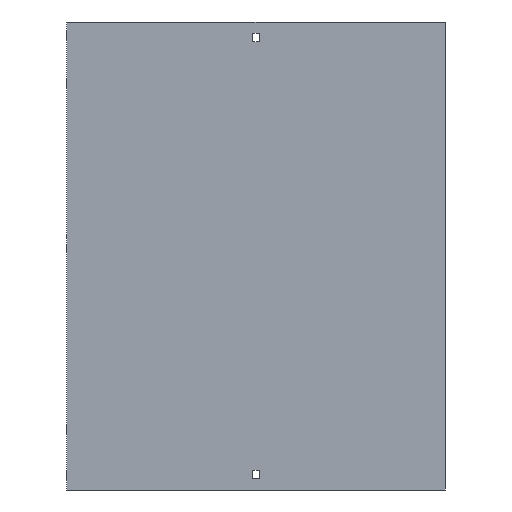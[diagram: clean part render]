
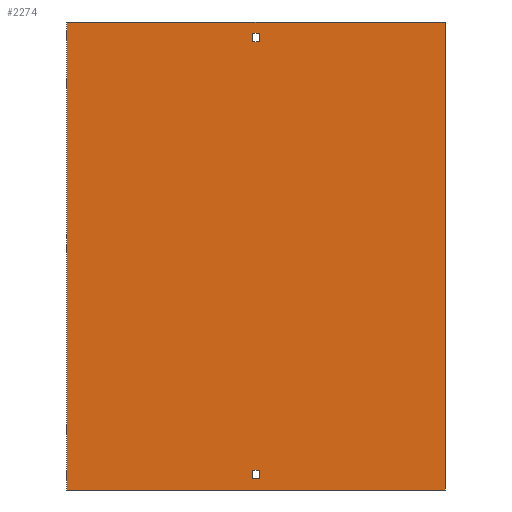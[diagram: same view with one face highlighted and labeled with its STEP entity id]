
A CAD part, front view. The second image highlights one B-rep face of the part: STEP entity #2274.
In plain terms, the highlighted planar face has unit normal (0, -1, 0).
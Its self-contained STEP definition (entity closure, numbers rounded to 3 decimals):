
#31 = VECTOR ( 'NONE', #1692, 1000. ) ;
#177 = CARTESIAN_POINT ( 'NONE',  ( 3.25, 0., 238. ) ) ;
#181 = VERTEX_POINT ( 'NONE', #618 ) ;
#189 = VECTOR ( 'NONE', #203, 1000. ) ;
#203 = DIRECTION ( 'NONE',  ( 0., 0., -1. ) ) ;
#223 = CARTESIAN_POINT ( 'NONE',  ( -3.25, 0., -229. ) ) ;
#231 = ORIENTED_EDGE ( 'NONE', *, *, #1274, .T. ) ;
#254 = EDGE_CURVE ( 'NONE', #893, #1667, #693, .T. ) ;
#265 = ORIENTED_EDGE ( 'NONE', *, *, #254, .T. ) ;
#286 = VERTEX_POINT ( 'NONE', #1114 ) ;
#298 = LINE ( 'NONE', #2214, #549 ) ;
#364 = ORIENTED_EDGE ( 'NONE', *, *, #1411, .T. ) ;
#373 = CARTESIAN_POINT ( 'NONE',  ( -3.25, 0., -229. ) ) ;
#395 = CARTESIAN_POINT ( 'NONE',  ( 3.25, 0., -238. ) ) ;
#406 = EDGE_CURVE ( 'NONE', #1943, #286, #1634, .T. ) ;
#463 = VECTOR ( 'NONE', #1958, 1000. ) ;
#478 = CARTESIAN_POINT ( 'NONE',  ( 202., 0., 250. ) ) ;
#488 = DIRECTION ( 'NONE',  ( -1., 0., 0. ) ) ;
#505 = EDGE_CURVE ( 'NONE', #2232, #1609, #799, .T. ) ;
#528 = VECTOR ( 'NONE', #2341, 1000. ) ;
#549 = VECTOR ( 'NONE', #1150, 1000. ) ;
#557 = VECTOR ( 'NONE', #1523, 1000. ) ;
#560 = EDGE_LOOP ( 'NONE', ( #2532, #2592, #1672, #599 ) ) ;
#579 = CARTESIAN_POINT ( 'NONE',  ( 202., 0., -250. ) ) ;
#599 = ORIENTED_EDGE ( 'NONE', *, *, #505, .F. ) ;
#616 = DIRECTION ( 'NONE',  ( 0., 0., 1. ) ) ;
#618 = CARTESIAN_POINT ( 'NONE',  ( 3.25, 0., -229. ) ) ;
#674 = EDGE_CURVE ( 'NONE', #1574, #181, #2619, .T. ) ;
#693 = LINE ( 'NONE', #2589, #807 ) ;
#725 = DIRECTION ( 'NONE',  ( 0., 0., -1. ) ) ;
#787 = VERTEX_POINT ( 'NONE', #1006 ) ;
#799 = LINE ( 'NONE', #811, #2564 ) ;
#807 = VECTOR ( 'NONE', #1528, 1000. ) ;
#811 = CARTESIAN_POINT ( 'NONE',  ( 3.25, 0., 238. ) ) ;
#844 = CARTESIAN_POINT ( 'NONE',  ( -3.25, 0., 229. ) ) ;
#860 = EDGE_LOOP ( 'NONE', ( #364, #2531, #2671, #231 ) ) ;
#893 = VERTEX_POINT ( 'NONE', #2568 ) ;
#921 = CARTESIAN_POINT ( 'NONE',  ( 3.25, 0., 229. ) ) ;
#935 = CARTESIAN_POINT ( 'NONE',  ( 202., 0., 250. ) ) ;
#1006 = CARTESIAN_POINT ( 'NONE',  ( -202., 0., -250. ) ) ;
#1022 = ORIENTED_EDGE ( 'NONE', *, *, #1963, .T. ) ;
#1031 = VERTEX_POINT ( 'NONE', #478 ) ;
#1114 = CARTESIAN_POINT ( 'NONE',  ( -3.25, 0., 229. ) ) ;
#1150 = DIRECTION ( 'NONE',  ( -1., 0., 0. ) ) ;
#1272 = LINE ( 'NONE', #2122, #528 ) ;
#1274 = EDGE_CURVE ( 'NONE', #2621, #787, #1277, .T. ) ;
#1277 = LINE ( 'NONE', #1925, #189 ) ;
#1318 = CARTESIAN_POINT ( 'NONE',  ( -202., 0., 250. ) ) ;
#1322 = FACE_BOUND ( 'NONE', #2565, .T. ) ;
#1323 = CARTESIAN_POINT ( 'NONE',  ( -202., 0., -250. ) ) ;
#1347 = CARTESIAN_POINT ( 'NONE',  ( -202., 0., 250. ) ) ;
#1401 = DIRECTION ( 'NONE',  ( 0., 0., -1. ) ) ;
#1411 = EDGE_CURVE ( 'NONE', #787, #1494, #2377, .T. ) ;
#1427 = LINE ( 'NONE', #395, #2689 ) ;
#1494 = VERTEX_POINT ( 'NONE', #579 ) ;
#1523 = DIRECTION ( 'NONE',  ( 1., 0., 0. ) ) ;
#1528 = DIRECTION ( 'NONE',  ( -1., 0., 0. ) ) ;
#1574 = VERTEX_POINT ( 'NONE', #373 ) ;
#1609 = VERTEX_POINT ( 'NONE', #177 ) ;
#1634 = LINE ( 'NONE', #1796, #1911 ) ;
#1667 = VERTEX_POINT ( 'NONE', #2746 ) ;
#1672 = ORIENTED_EDGE ( 'NONE', *, *, #1843, .F. ) ;
#1692 = DIRECTION ( 'NONE',  ( 1., 0., 0. ) ) ;
#1796 = CARTESIAN_POINT ( 'NONE',  ( -3.25, 0., 238. ) ) ;
#1797 = DIRECTION ( 'NONE',  ( 0., 1., 0. ) ) ;
#1809 = VECTOR ( 'NONE', #725, 1000. ) ;
#1821 = DIRECTION ( 'NONE',  ( 0., 0., -1. ) ) ;
#1843 = EDGE_CURVE ( 'NONE', #1609, #1943, #298, .T. ) ;
#1911 = VECTOR ( 'NONE', #1821, 1000. ) ;
#1925 = CARTESIAN_POINT ( 'NONE',  ( -202., 0., 250. ) ) ;
#1940 = CARTESIAN_POINT ( 'NONE',  ( -3.25, 0., -238. ) ) ;
#1943 = VERTEX_POINT ( 'NONE', #2474 ) ;
#1957 = LINE ( 'NONE', #935, #1809 ) ;
#1958 = DIRECTION ( 'NONE',  ( 1., 0., 0. ) ) ;
#1963 = EDGE_CURVE ( 'NONE', #181, #893, #1427, .T. ) ;
#1990 = FACE_BOUND ( 'NONE', #560, .T. ) ;
#2102 = EDGE_CURVE ( 'NONE', #1667, #1574, #2138, .T. ) ;
#2122 = CARTESIAN_POINT ( 'NONE',  ( -202., 0., 250. ) ) ;
#2138 = LINE ( 'NONE', #1940, #2177 ) ;
#2177 = VECTOR ( 'NONE', #2359, 1000. ) ;
#2181 = EDGE_CURVE ( 'NONE', #286, #2232, #2754, .T. ) ;
#2214 = CARTESIAN_POINT ( 'NONE',  ( -3.25, 0., 238. ) ) ;
#2218 = PLANE ( 'NONE',  #2662 ) ;
#2232 = VERTEX_POINT ( 'NONE', #921 ) ;
#2274 = ADVANCED_FACE ( 'NONE', ( #2421, #1990, #1322 ), #2218, .F. ) ;
#2320 = EDGE_CURVE ( 'NONE', #1031, #1494, #1957, .T. ) ;
#2341 = DIRECTION ( 'NONE',  ( 1., 0., 0. ) ) ;
#2351 = ORIENTED_EDGE ( 'NONE', *, *, #2102, .T. ) ;
#2359 = DIRECTION ( 'NONE',  ( 0., 0., 1. ) ) ;
#2377 = LINE ( 'NONE', #1323, #463 ) ;
#2421 = FACE_OUTER_BOUND ( 'NONE', #860, .T. ) ;
#2474 = CARTESIAN_POINT ( 'NONE',  ( -3.25, 0., 238. ) ) ;
#2531 = ORIENTED_EDGE ( 'NONE', *, *, #2320, .F. ) ;
#2532 = ORIENTED_EDGE ( 'NONE', *, *, #2181, .F. ) ;
#2564 = VECTOR ( 'NONE', #616, 1000. ) ;
#2565 = EDGE_LOOP ( 'NONE', ( #2351, #2683, #1022, #265 ) ) ;
#2568 = CARTESIAN_POINT ( 'NONE',  ( 3.25, 0., -238. ) ) ;
#2574 = EDGE_CURVE ( 'NONE', #2621, #1031, #1272, .T. ) ;
#2589 = CARTESIAN_POINT ( 'NONE',  ( -3.25, 0., -238. ) ) ;
#2592 = ORIENTED_EDGE ( 'NONE', *, *, #406, .F. ) ;
#2619 = LINE ( 'NONE', #223, #557 ) ;
#2621 = VERTEX_POINT ( 'NONE', #1318 ) ;
#2662 = AXIS2_PLACEMENT_3D ( 'NONE', #1347, #1797, #488 ) ;
#2671 = ORIENTED_EDGE ( 'NONE', *, *, #2574, .F. ) ;
#2683 = ORIENTED_EDGE ( 'NONE', *, *, #674, .T. ) ;
#2689 = VECTOR ( 'NONE', #1401, 1000. ) ;
#2746 = CARTESIAN_POINT ( 'NONE',  ( -3.25, 0., -238. ) ) ;
#2754 = LINE ( 'NONE', #844, #31 ) ;
